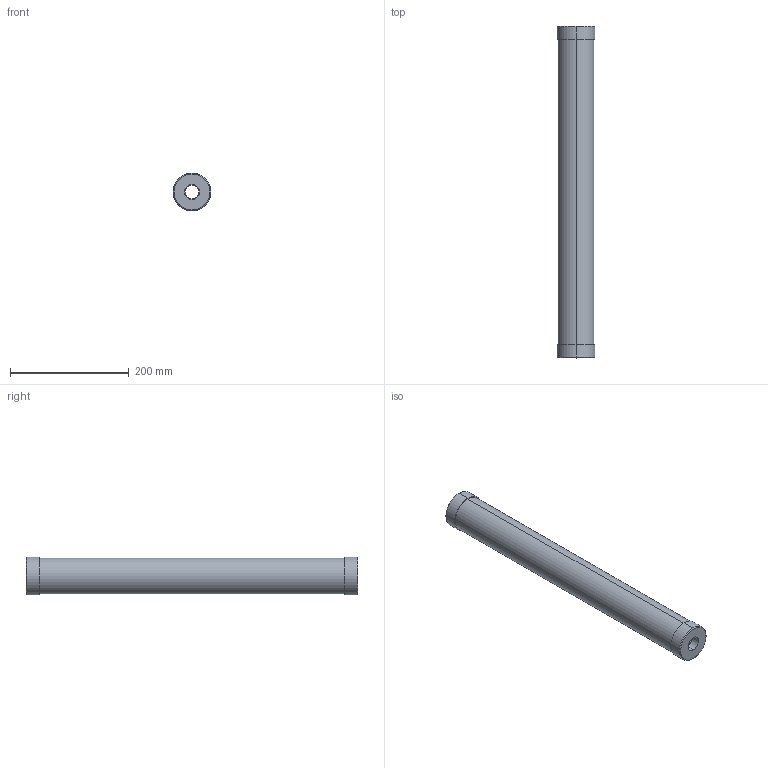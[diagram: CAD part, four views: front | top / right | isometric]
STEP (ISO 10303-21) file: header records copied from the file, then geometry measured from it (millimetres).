
FILE_DESCRIPTION (( 'STEP AP203' ), '1' );
FILE_NAME ('CC1000_P_NPT.STEP', '2016-03-21T09:17:54', ( '' ), ( '' ), 'SwSTEP 2.0', 'SolidWorks 2014', '' );
FILE_SCHEMA (( 'CONFIG_CONTROL_DESIGN' ));
Length unit declared in the file: inch
Products named in the file (2): CC1000_P_NPT
Bounding box: 63.5 x 558.8 x 63.5 mm (x, y, z)
Volume: 497566.8 mm3; surface area: 202850.6 mm2
Topology: 1 solids, 1 shells, 28 faces, 56 edges, 36 vertices
Faces by surface type: cylinder 12, cone 8, plane 8
Entity records: 905 total; most frequent: DIRECTION 152, CARTESIAN_POINT 122, ORIENTED_EDGE 112, AXIS2_PLACEMENT_3D 66, EDGE_CURVE 56, VERTEX_POINT 36, CIRCLE 36, EDGE_LOOP 36
